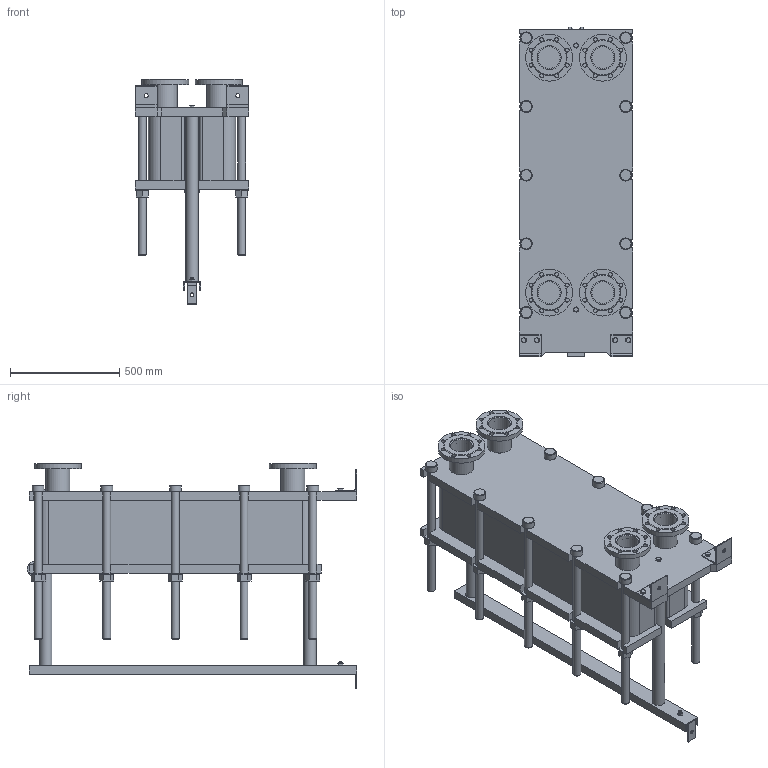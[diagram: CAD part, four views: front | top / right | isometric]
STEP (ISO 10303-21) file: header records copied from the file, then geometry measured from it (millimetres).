
FILE_DESCRIPTION(/* description */ (''),/* implementation_level */ '2;1');
FILE_NAME(/* name */ 'C:\Users\zhuro\Desktop\ENCO\TO\ЭН-04\ЭН-0,5-04-85-1.stp',/* time_stamp */ '2022-06-06T10:52:17+03:00',/* author */ ('zhuro'),/* organization */ (''),/* preprocessor_version */ 'ST-DEVELOPER v18.1',/* originating_system */ 'Autodesk Inventor 2022',/* authorisation */ '');
FILE_SCHEMA (('AUTOMOTIVE_DESIGN { 1 0 10303 214 3 1 1 }'));
Length unit declared in the file: millimetre
Products named in the file (1): ЭН-0,5-04-85-1
Bounding box: 520 x 1510 x 1032.5 mm (x, y, z)
Volume: 216951841.9 mm3; surface area: 8025410.5 mm2
Topology: 45 solids, 45 shells, 668 faces, 1611 edges, 1048 vertices
Faces by surface type: plane 457, cylinder 166, cone 39, torus 6
Full cylindrical faces by diameter (mm): 8 x4, 10 x2, 16 x8, 18 x35, 36 x25, 40 x2, 42 x1, 45 x4, 54 x10, 57 x2, 60 x10, 68 x2, 100 x4, 110 x8, 215 x4
Entity records: 23607 total; most frequent: CARTESIAN_POINT 7348, DIRECTION 3371, ORIENTED_EDGE 3142, EDGE_CURVE 1571, AXIS2_PLACEMENT_3D 1199, VERTEX_POINT 1044, LINE 973, VECTOR 973
